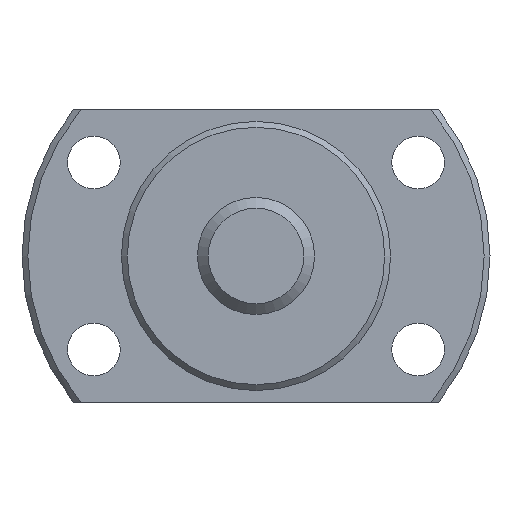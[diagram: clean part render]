
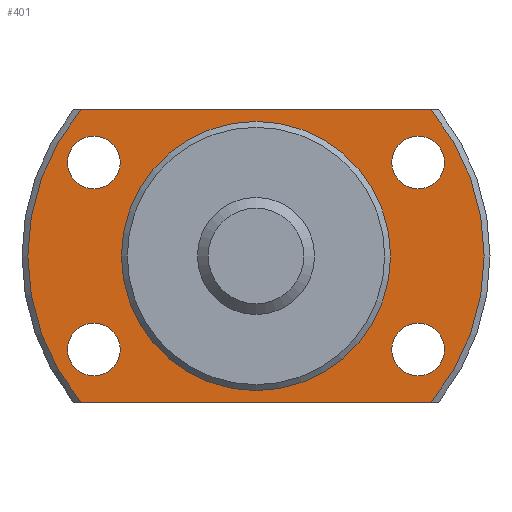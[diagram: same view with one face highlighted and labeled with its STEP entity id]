
A CAD part, left-side view. The second image highlights one B-rep face of the part: STEP entity #401.
In plain terms, the highlighted planar face has unit normal (-1, 0, 0).
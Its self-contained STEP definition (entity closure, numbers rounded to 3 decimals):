
#20=LINE('',#706,#28);
#21=LINE('',#710,#29);
#28=VECTOR('',#577,1000.);
#29=VECTOR('',#580,1000.);
#106=ORIENTED_EDGE('',*,*,#185,.T.);
#107=ORIENTED_EDGE('',*,*,#186,.T.);
#108=ORIENTED_EDGE('',*,*,#187,.T.);
#109=ORIENTED_EDGE('',*,*,#188,.T.);
#110=ORIENTED_EDGE('',*,*,#170,.F.);
#111=ORIENTED_EDGE('',*,*,#189,.F.);
#112=ORIENTED_EDGE('',*,*,#190,.F.);
#113=ORIENTED_EDGE('',*,*,#191,.F.);
#114=ORIENTED_EDGE('',*,*,#184,.T.);
#170=EDGE_CURVE('',#215,#216,#251,.T.);
#184=EDGE_CURVE('',#228,#228,#260,.T.);
#185=EDGE_CURVE('',#229,#229,#261,.T.);
#186=EDGE_CURVE('',#230,#230,#262,.T.);
#187=EDGE_CURVE('',#231,#231,#263,.T.);
#188=EDGE_CURVE('',#232,#232,#264,.T.);
#189=EDGE_CURVE('',#233,#215,#20,.T.);
#190=EDGE_CURVE('',#234,#233,#265,.T.);
#191=EDGE_CURVE('',#216,#234,#21,.T.);
#215=VERTEX_POINT('',#652);
#216=VERTEX_POINT('',#654);
#228=VERTEX_POINT('',#696);
#229=VERTEX_POINT('',#699);
#230=VERTEX_POINT('',#701);
#231=VERTEX_POINT('',#703);
#232=VERTEX_POINT('',#705);
#233=VERTEX_POINT('',#707);
#234=VERTEX_POINT('',#709);
#251=CIRCLE('',#455,19.5);
#260=CIRCLE('',#471,11.35);
#261=CIRCLE('',#473,2.25);
#262=CIRCLE('',#474,2.25);
#263=CIRCLE('',#475,2.25);
#264=CIRCLE('',#476,2.25);
#265=CIRCLE('',#477,19.5);
#298=EDGE_LOOP('',(#106));
#299=EDGE_LOOP('',(#107));
#300=EDGE_LOOP('',(#108));
#301=EDGE_LOOP('',(#109));
#302=EDGE_LOOP('',(#110,#111,#112,#113));
#303=EDGE_LOOP('',(#114));
#350=FACE_BOUND('',#298,.T.);
#351=FACE_BOUND('',#299,.T.);
#352=FACE_BOUND('',#300,.T.);
#353=FACE_BOUND('',#301,.T.);
#354=FACE_BOUND('',#302,.T.);
#355=FACE_BOUND('',#303,.T.);
#382=PLANE('',#472);
#401=ADVANCED_FACE('',(#350,#351,#352,#353,#354,#355),#382,.F.);
#455=AXIS2_PLACEMENT_3D('',#653,#531,#532);
#471=AXIS2_PLACEMENT_3D('',#695,#565,#566);
#472=AXIS2_PLACEMENT_3D('',#697,#567,#568);
#473=AXIS2_PLACEMENT_3D('',#698,#569,#570);
#474=AXIS2_PLACEMENT_3D('',#700,#571,#572);
#475=AXIS2_PLACEMENT_3D('',#702,#573,#574);
#476=AXIS2_PLACEMENT_3D('',#704,#575,#576);
#477=AXIS2_PLACEMENT_3D('',#708,#578,#579);
#531=DIRECTION('',(1.,0.,0.));
#532=DIRECTION('',(0.,0.,-1.));
#565=DIRECTION('',(1.,0.,0.));
#566=DIRECTION('',(0.,0.,-1.));
#567=DIRECTION('',(1.,0.,0.));
#568=DIRECTION('',(0.,0.,-1.));
#569=DIRECTION('',(1.,0.,0.));
#570=DIRECTION('',(0.,0.,-1.));
#571=DIRECTION('',(1.,0.,0.));
#572=DIRECTION('',(0.,0.,-1.));
#573=DIRECTION('',(1.,0.,0.));
#574=DIRECTION('',(0.,0.,-1.));
#575=DIRECTION('',(1.,0.,0.));
#576=DIRECTION('',(0.,0.,-1.));
#577=DIRECTION('',(0.,1.,0.));
#578=DIRECTION('',(1.,0.,0.));
#579=DIRECTION('',(0.,0.,-1.));
#580=DIRECTION('',(0.,-1.,0.));
#652=CARTESIAN_POINT('',(21.,14.967,-12.5));
#653=CARTESIAN_POINT('',(21.,0.,0.));
#654=CARTESIAN_POINT('',(21.,14.967,12.5));
#695=CARTESIAN_POINT('',(21.,0.,0.));
#696=CARTESIAN_POINT('',(21.,0.,-11.35));
#697=CARTESIAN_POINT('',(21.,11.35,0.));
#698=CARTESIAN_POINT('',(21.,-13.856,-8.));
#699=CARTESIAN_POINT('',(21.,-13.856,-10.25));
#700=CARTESIAN_POINT('',(21.,-13.856,8.));
#701=CARTESIAN_POINT('',(21.,-13.856,5.75));
#702=CARTESIAN_POINT('',(21.,13.856,-8.));
#703=CARTESIAN_POINT('',(21.,13.856,-10.25));
#704=CARTESIAN_POINT('',(21.,13.856,8.));
#705=CARTESIAN_POINT('',(21.,13.856,5.75));
#706=CARTESIAN_POINT('',(21.,-25.,-12.5));
#707=CARTESIAN_POINT('',(21.,-14.967,-12.5));
#708=CARTESIAN_POINT('',(21.,0.,0.));
#709=CARTESIAN_POINT('',(21.,-14.967,12.5));
#710=CARTESIAN_POINT('',(21.,25.,12.5));
